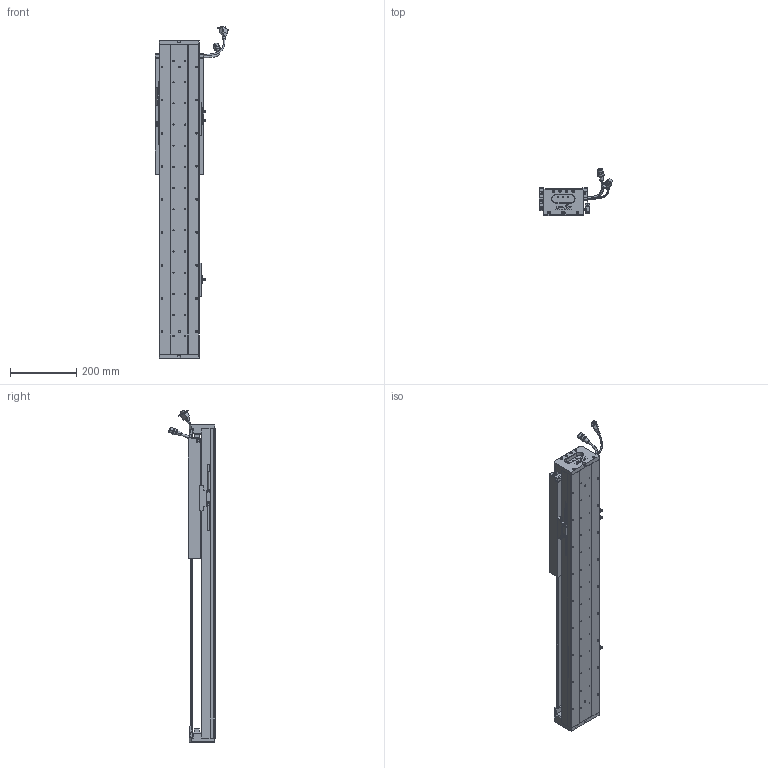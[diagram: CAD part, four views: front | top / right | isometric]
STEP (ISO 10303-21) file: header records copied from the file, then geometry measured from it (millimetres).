
FILE_DESCRIPTION (( 'STEP AP203' ), '1' );
FILE_NAME ('Z5-RY120D-1-L500-B-K.SLDASM_0500.step', '2021-05-17T06:21:21', ( '盈信电脑' ), ( '东莞市道滘镇水果街19号' ), 'SwSTEP 2.0', 'SolidWorks 2016', '' );
FILE_SCHEMA (( 'CONFIG_CONTROL_DESIGN' ));
Length unit declared in the file: millimetre
Products named in the file (37): SCALE; Z5-RY120-500-倰第菁釱_0500; 140蚥薯蝶輸; SEAL; HARNESS-Part-1; Z-RY120D詩湍奻揤裔; Z5-RY120D-1-L500-B-K.SLDASM_0500; SHIELDPLATE; 120-Z-臏賑輸盄裔(21遴); RY100FB-遵嫖萇覜茼え; SCREW-M1.6-3; SCREW-M1.6; 覜茼ん672; SCREW-M1.6-2; Z5-RY120-L500詩湍100mm遵_0500; SCREW-M1.6-1; SEAL-Part-1; 140雄赽晤鎢ん堤盄; HARNESS-Part-2; 榋妏寠巭燃_暯_M2_2; 080黍杅芛假蚾釱21遴; 672嫖萇羲壽假蚾釱; Z-120詩湍傷裔啣; PBU_SHEET; PSLH080_PSLF2; SCREW-M1.7-1; Z5-RY120铝滑块（21款）; HARNESS; LABEL-Part-1; HOLDER0; COVER; LABEL; SCREW-M1.7; COVER-Part-1; SCALE-Part-1; Z-RY120D詩湍狟揤裔; SCALE-Part-2
Assembly tree (43 placements, depth 4):
  Z5-RY120D-1-L500-B-K.SLDASM_0500
    Z5-RY120-500-倰第菁釱_0500
    覜茼ん672  x3
    672嫖萇羲壽假蚾釱  x2
    Z5-RY120铝滑块（21款）
    PSLH080_PSLF2
      SCALE
        SCALE-Part-1
        SCALE-Part-2
      HARNESS
        HARNESS-Part-1
        HARNESS-Part-2
      LABEL
        LABEL-Part-1
      COVER
        COVER-Part-1
      SEAL
        SEAL-Part-1
      榋妏寠巭燃_暯_M2_2
      SHIELDPLATE
      SCREW-M1.7
      SCREW-M1.7-1
      PBU_SHEET
      SCREW-M1.6
      SCREW-M1.6-1
      SCREW-M1.6-2
      SCREW-M1.6-3
      HOLDER0
    080黍杅芛假蚾釱21遴
    120-Z-臏賑輸盄裔(21遴)
    140雄赽晤鎢ん堤盄
    140蚥薯蝶輸  x2
    RY100FB-遵嫖萇覜茼え
    Z-120詩湍傷裔啣  x2
    Z-RY120D詩湍奻揤裔  x2
    Z-RY120D詩湍狟揤裔  x2
    Z5-RY120-L500詩湍100mm遵_0500
Bounding box: 222.88 x 140.94 x 1004 mm (x, y, z)
Volume: 3258327.1 mm3; surface area: 1020677.2 mm2
Topology: 38 solids, 38 shells, 2805 faces, 7517 edges, 4752 vertices
Faces by surface type: cylinder 1291, plane 1122, cone 270, torus 69, bspline 53
Entity records: 83438 total; most frequent: CARTESIAN_POINT 21759, ORIENTED_EDGE 12018, DIRECTION 11987, EDGE_CURVE 6009, AXIS2_PLACEMENT_3D 4406, VERTEX_POINT 3872, VECTOR 3175, LINE 3175
